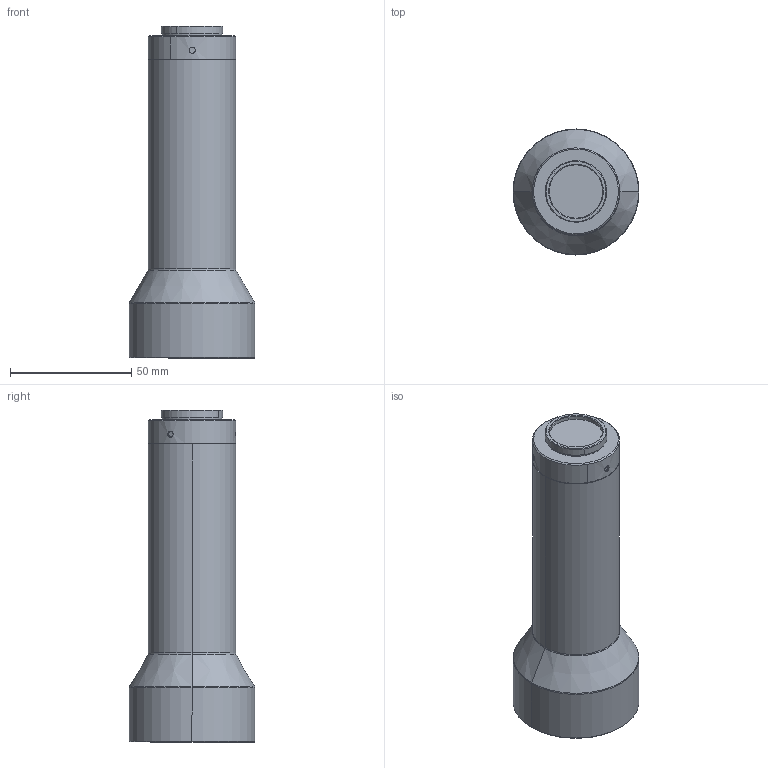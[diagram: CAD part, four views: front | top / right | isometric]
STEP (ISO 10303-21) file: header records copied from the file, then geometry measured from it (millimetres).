
FILE_DESCRIPTION (( 'STEP AP203' ), '1' );
FILE_NAME ('WWK06-110-111.STEP', '2023-08-04T02:25:39', ( '' ), ( '' ), 'SwSTEP 2.0', 'SolidWorks 2017', '' );
FILE_SCHEMA (( 'CONFIG_CONTROL_DESIGN' ));
Length unit declared in the file: millimetre
Products named in the file (1): WWK06-110-111
Bounding box: 52 x 52 x 137.03 mm (x, y, z)
Volume: 166877.7 mm3; surface area: 20582.1 mm2
Topology: 1 solids, 1 shells, 48 faces, 94 edges, 56 vertices
Faces by surface type: cylinder 23, cone 14, plane 7, torus 4
Entity records: 1507 total; most frequent: CARTESIAN_POINT 427, DIRECTION 228, ORIENTED_EDGE 188, AXIS2_PLACEMENT_3D 97, EDGE_CURVE 94, EDGE_LOOP 56, VERTEX_POINT 56, FACE_OUTER_BOUND 48
